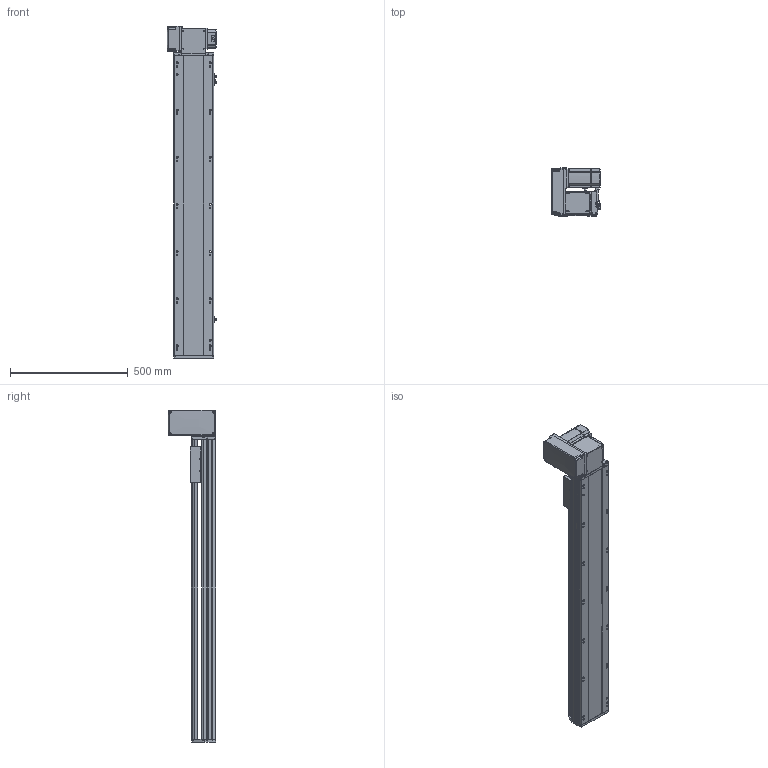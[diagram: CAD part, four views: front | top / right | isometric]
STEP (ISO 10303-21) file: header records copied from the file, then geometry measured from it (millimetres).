
FILE_DESCRIPTION (( 'STEP AP214' ), '1' );
FILE_NAME ('RTB17S-XX-1000-LW-M75-C4.STEP', '2025-12-12T01:03:56', ( '' ), ( '' ), 'SwSTEP 2.0', 'SolidWorks 2018', '' );
FILE_SCHEMA (( 'AUTOMOTIVE_DESIGN' ));
Length unit declared in the file: millimetre
Products named in the file (15): RTB17-R-011菁釱^RTB17S-XX-XX-LW-M75-C4; RTB17S-L-007奻裔^RTB17S-XX-XX-LW-M75-C4; RTH13-BL-012覜茼え俋离^RTB17S-賑釱_RTB17S-XX-XX-LW-M75-C4; RTB17S-LW-々湍釱蚾饜-750W^RTB17S-XX-XX-LW-M75-C4; RTB17S-L-001-耜醱啣^RTB17S-XX-XX-LW-M75-C4; RTB22S-GY-018P^RTB17S-LW-々湍釱蚾饜-750W_RTB17S-XX-XX-LW-M75-C4; RTB22S-GY-008-M75--萇儂啣^RTB17S-LW-々湍釱蚾饜-750W_RTB17S-XX-XX-LW-M75-C4; 750W萇儂^RTB17S-XX-XX-LW-M75-C4; RTB17S-XX-1000-LW-M75-C4; RTB22S-GY-005P^RTB17S-LW-々湍釱蚾饜-750W_RTB17S-XX-XX-LW-M75-C4; RTB17S-賑釱^RTB17S-XX-XX-LW-M75-C4; RTB22S-GY-017P^RTB17S-LW-々湍釱蚾饜-750W_RTB17S-XX-XX-LW-M75-C4; RTB17S-L-014-T20-P75--々湍釱^RTB17S-LW-々湍釱蚾饜-750W_RTB17S-XX-XX-LW-M75-C4; EE672^RTB17S-XX-XX-LW-M75-C4; RTB17S-L-004-賑釱^RTB17S-賑釱_RTB17S-XX-XX-LW-M75-C4
Assembly tree (17 placements, depth 3):
  RTB17S-XX-1000-LW-M75-C4
    RTB17-R-011菁釱^RTB17S-XX-XX-LW-M75-C4
    EE672^RTB17S-XX-XX-LW-M75-C4  x3
    RTB17S-L-001-耜醱啣^RTB17S-XX-XX-LW-M75-C4
    RTB17S-賑釱^RTB17S-XX-XX-LW-M75-C4
      RTB17S-L-004-賑釱^RTB17S-賑釱_RTB17S-XX-XX-LW-M75-C4
      RTH13-BL-012覜茼え俋离^RTB17S-賑釱_RTB17S-XX-XX-LW-M75-C4
    RTB17S-L-007奻裔^RTB17S-XX-XX-LW-M75-C4
    750W萇儂^RTB17S-XX-XX-LW-M75-C4
    RTB17S-LW-々湍釱蚾饜-750W^RTB17S-XX-XX-LW-M75-C4
      RTB17S-L-014-T20-P75--々湍釱^RTB17S-LW-々湍釱蚾饜-750W_RTB17S-XX-XX-LW-M75-C4
      RTB22S-GY-005P^RTB17S-LW-々湍釱蚾饜-750W_RTB17S-XX-XX-LW-M75-C4
      RTB22S-GY-017P^RTB17S-LW-々湍釱蚾饜-750W_RTB17S-XX-XX-LW-M75-C4  x2
      RTB22S-GY-008-M75--萇儂啣^RTB17S-LW-々湍釱蚾饜-750W_RTB17S-XX-XX-LW-M75-C4
      RTB22S-GY-018P^RTB17S-LW-々湍釱蚾饜-750W_RTB17S-XX-XX-LW-M75-C4
Bounding box: 210.4 x 201.5 x 1407.5 mm (x, y, z)
Volume: 12203760.2 mm3; surface area: 2070019.7 mm2
Topology: 17 solids, 17 shells, 2089 faces, 5782 edges, 3734 vertices
Faces by surface type: plane 970, cylinder 703, bspline 294, cone 110, sphere 8, torus 4
Entity records: 58102 total; most frequent: CARTESIAN_POINT 17046, ORIENTED_EDGE 8408, DIRECTION 7862, EDGE_CURVE 4204, AXIS2_PLACEMENT_3D 2754, VERTEX_POINT 2738, VECTOR 2354, LINE 2354
